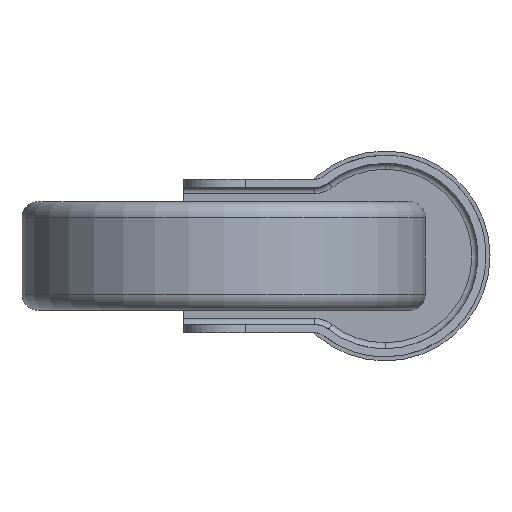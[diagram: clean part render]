
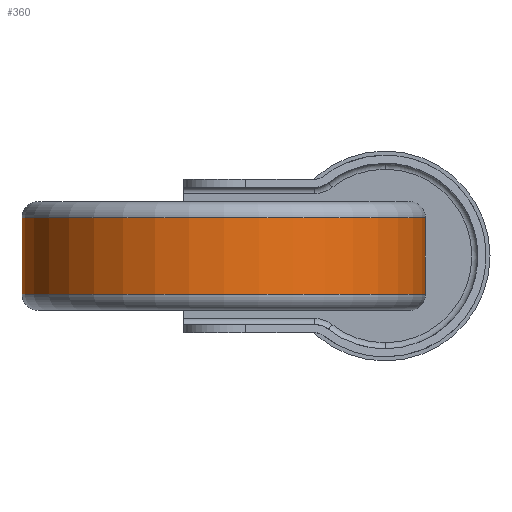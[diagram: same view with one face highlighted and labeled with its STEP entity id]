
A CAD part, front view. The second image highlights one B-rep face of the part: STEP entity #360.
In plain terms, the highlighted cylindrical face has radius 50 mm (diameter 100 mm), a partial arc.
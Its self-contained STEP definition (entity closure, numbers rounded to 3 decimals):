
#30 = CIRCLE ( 'NONE', #488, 50. ) ;
#121 = CIRCLE ( 'NONE', #518, 50. ) ;
#235 = EDGE_CURVE ( 'NONE', #1061, #1248, #1885, .T. ) ;
#239 = EDGE_CURVE ( 'NONE', #1100, #2206, #1852, .T. ) ;
#285 = EDGE_CURVE ( 'NONE', #1100, #1061, #121, .T. ) ;
#315 = EDGE_CURVE ( 'NONE', #2206, #1248, #30, .T. ) ;
#360 = ADVANCED_FACE ( 'NONE', ( #715 ), #711, .T. ) ;
#488 = AXIS2_PLACEMENT_3D ( 'NONE', #1980, #1981, #1982 ) ;
#518 = AXIS2_PLACEMENT_3D ( 'NONE', #2138, #2139, #2140 ) ;
#667 = VECTOR ( 'NONE', #1847, 1000. ) ;
#711 = CYLINDRICAL_SURFACE ( 'NONE', #712, 50. ) ;
#712 = AXIS2_PLACEMENT_3D ( 'NONE', #1719, #1718, #1717 ) ;
#715 = FACE_OUTER_BOUND ( 'NONE', #1141, .T. ) ;
#870 = VECTOR ( 'NONE', #1881, 1000. ) ;
#916 = ORIENTED_EDGE ( 'NONE', *, *, #285, .T. ) ;
#1051 = ORIENTED_EDGE ( 'NONE', *, *, #239, .F. ) ;
#1061 = VERTEX_POINT ( 'NONE', #1552 ) ;
#1100 = VERTEX_POINT ( 'NONE', #1624 ) ;
#1141 = EDGE_LOOP ( 'NONE', ( #1051, #916, #1305, #1389 ) ) ;
#1248 = VERTEX_POINT ( 'NONE', #1530 ) ;
#1305 = ORIENTED_EDGE ( 'NONE', *, *, #235, .T. ) ;
#1389 = ORIENTED_EDGE ( 'NONE', *, *, #315, .F. ) ;
#1471 = CARTESIAN_POINT ( 'NONE',  ( -56.673, 13.274, -4. ) ) ;
#1530 = CARTESIAN_POINT ( 'NONE',  ( 43.327, 13.274, -4. ) ) ;
#1552 = CARTESIAN_POINT ( 'NONE',  ( 43.327, 13.274, -23. ) ) ;
#1624 = CARTESIAN_POINT ( 'NONE',  ( -56.673, 13.274, -23. ) ) ;
#1717 = DIRECTION ( 'NONE',  ( 1., 0., 0. ) ) ;
#1718 = DIRECTION ( 'NONE',  ( 0., 0., 1. ) ) ;
#1719 = CARTESIAN_POINT ( 'NONE',  ( -6.673, 13.274, 0. ) ) ;
#1845 = CARTESIAN_POINT ( 'NONE',  ( -56.673, 13.274, 0. ) ) ;
#1847 = DIRECTION ( 'NONE',  ( 0., 0., 1. ) ) ;
#1852 = LINE ( 'NONE', #1845, #667 ) ;
#1879 = CARTESIAN_POINT ( 'NONE',  ( 43.327, 13.274, 0. ) ) ;
#1881 = DIRECTION ( 'NONE',  ( 0., 0., 1. ) ) ;
#1885 = LINE ( 'NONE', #1879, #870 ) ;
#1980 = CARTESIAN_POINT ( 'NONE',  ( -6.673, 13.274, -4. ) ) ;
#1981 = DIRECTION ( 'NONE',  ( 0., 0., 1. ) ) ;
#1982 = DIRECTION ( 'NONE',  ( 1., 0., 0. ) ) ;
#2138 = CARTESIAN_POINT ( 'NONE',  ( -6.673, 13.274, -23. ) ) ;
#2139 = DIRECTION ( 'NONE',  ( 0., 0., 1. ) ) ;
#2140 = DIRECTION ( 'NONE',  ( 1., 0., 0. ) ) ;
#2206 = VERTEX_POINT ( 'NONE', #1471 ) ;
